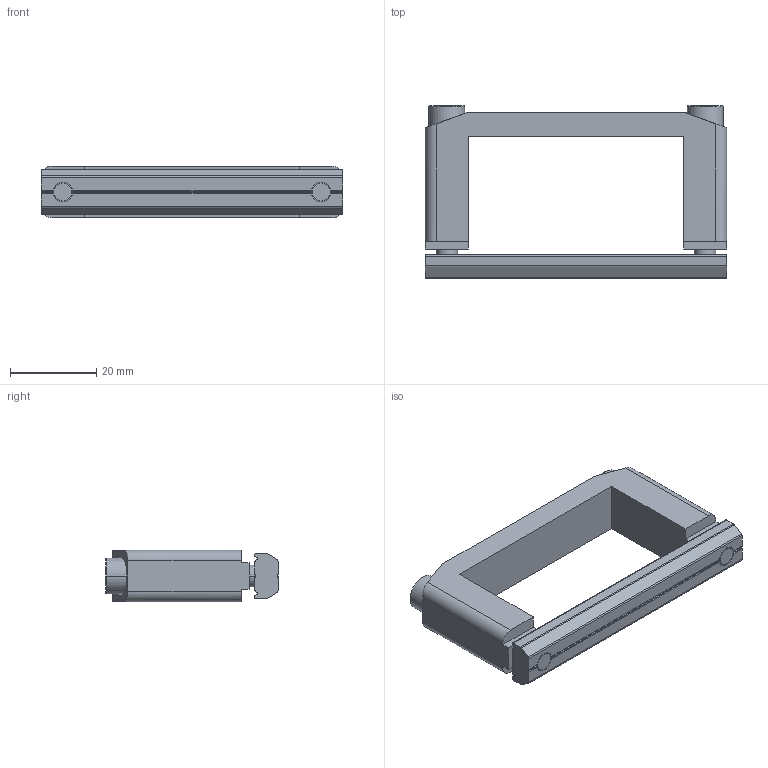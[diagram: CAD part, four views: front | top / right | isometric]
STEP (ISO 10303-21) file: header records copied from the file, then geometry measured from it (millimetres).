
FILE_DESCRIPTION (( 'STEP AP214' ), '1' );
FILE_NAME ('SMBB-2550T.STEP', '2022-12-08T06:45:08', ( '' ), ( '' ), 'SwSTEP 2.0', 'SolidWorks 2018', '' );
FILE_SCHEMA (( 'AUTOMOTIVE_DESIGN' ));
Length unit declared in the file: millimetre
Products named in the file (5): PTN-M5P60; PTS-M5; SMBB-2550; SMBB-2550T; PTC-M5L35
Assembly tree (6 placements, depth 2):
  SMBB-2550T
    SMBB-2550
    PTC-M5L35  x2
    PTN-M5P60
    PTS-M5  x2
Bounding box: 70 x 40 x 12 mm (x, y, z)
Volume: 14105.8 mm3; surface area: 9795.5 mm2
Topology: 6 solids, 6 shells, 463 faces, 1347 edges, 894 vertices
Faces by surface type: plane 390, cylinder 61, cone 12
Entity records: 9569 total; most frequent: CARTESIAN_POINT 1809, ORIENTED_EDGE 1626, DIRECTION 1573, EDGE_CURVE 813, VERTEX_POINT 540, AXIS2_PLACEMENT_3D 528, LINE 517, VECTOR 517
